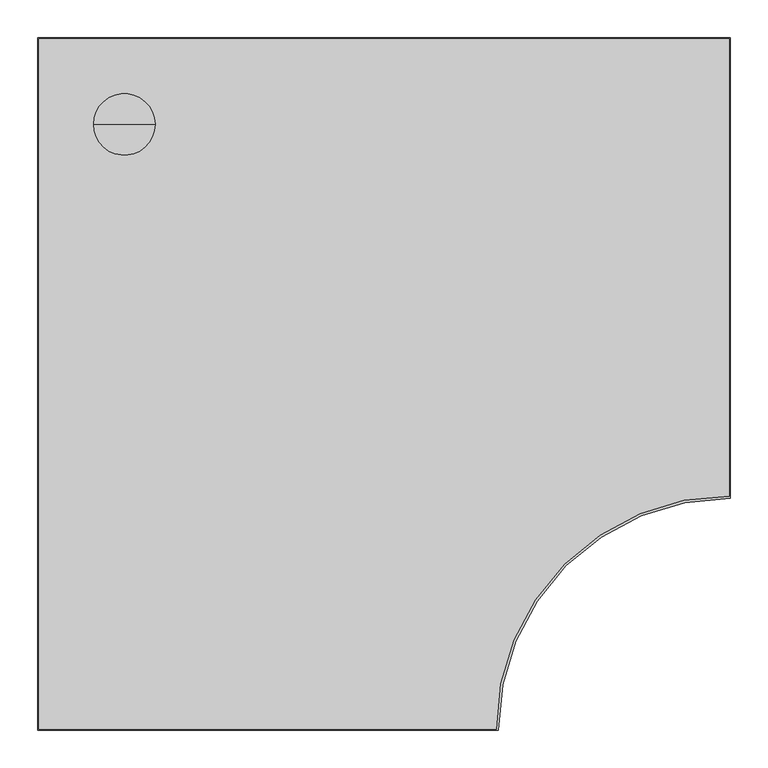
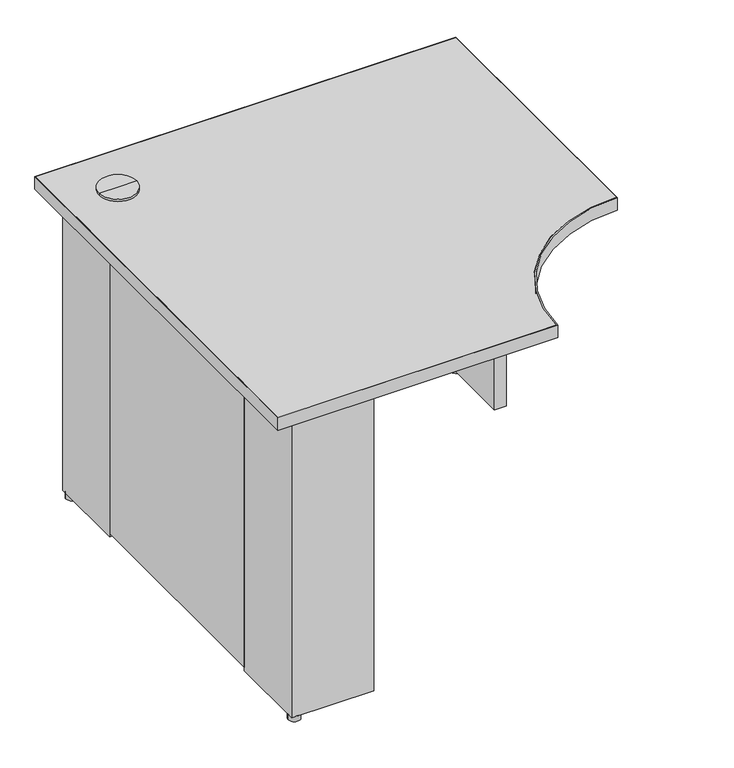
"""IFC4 building model written with IfcOpenShell, lengths in millimetres: furniture geometry, Steelcase - Kick Freestanding - Desk - Curve Corner - Full Height Modesty Panel : 24D x 36W - Two Clear Access Support - LPL."""

from ifc_helpers import new_model, si_unit, point, frame, frame_2d, origin, origin_with_axes, place, context, project, spatial, polyline, circle_curve, trimmed, segment, composite_curve, outline, extrude, source, transform, mapped, element, save
from ifc_brep_helpers import plane_surface, cylinder_surface, advanced_brep


def furniture_1b074408(model_context):
    return source(origin(), model_context, "Body", "SolidModel", [
        extrude(outline(polyline([(721.6393822, -63.5), (721.6393822, -38.1), (899.4393579, -38.1), (899.4393579, -215.8999939), (873.5313463, -215.8999939), (873.5313463, -63.5), (721.6393822, -63.5)])), frame((0.0, 0.0, 12.446), z_axis=(0.0, 0.0, 1.0), x_axis=(1.0, 0.0, 0.0)), (0.0, 0.0, 1.0), 682.498),
        extrude(outline(polyline([(215.8999939, -63.5), (63.5, -63.5), (63.5, -215.8999939), (38.1, -215.8999939), (38.1, -38.1), (215.8999939, -38.1), (215.8999939, -63.5)])), frame((0.0, 0.0, 12.446), z_axis=(0.0, 0.0, 1.0), x_axis=(1.0, 0.0, 0.0)), (0.0, 0.0, 1.0), 682.498),
        advanced_brep(
        [(114.3, -114.3, 728.98), (154.94, -114.3, 728.98), (73.66, -114.3, 728.98), (76.1699693, -114.3, 694.944), (152.4300307, -114.3, 694.944), (114.3, -114.3, 694.944), (76.1699693, -114.3, 723.9), (152.4300307, -114.3, 723.9), (73.66, -114.3, 723.9), (154.94, -114.3, 723.9)],
        [
            (0, 1),
            (1, 2, circle_curve(frame((114.3, -114.3, 728.98), z_axis=(0.0, 0.0, 1.0), x_axis=(1.0, 0.0, 0.0)), 40.64)),
            (2, 0),
            (2, 1, circle_curve(frame((114.3, -114.3, 728.98), z_axis=(0.0, 0.0, 1.0), x_axis=(1.0, 0.0, 0.0)), 40.64)),
            (3, 4, circle_curve(frame((114.3, -114.3, 694.944), z_axis=(0.0, 0.0, -1.0), x_axis=(1.0, 0.0, 0.0)), 38.1300307)),
            (4, 5),
            (5, 3),
            (4, 3, circle_curve(frame((114.3, -114.3, 694.944), z_axis=(0.0, 0.0, -1.0), x_axis=(1.0, 0.0, 0.0)), 38.1300307)),
            (6, 7, circle_curve(frame((114.3, -114.3, 723.9), z_axis=(0.0, 0.0, -1.0), x_axis=(1.0, 0.0, 0.0)), 38.1300307)),
            (7, 4),
            (3, 6),
            (7, 6, circle_curve(frame((114.3, -114.3, 723.9), z_axis=(0.0, 0.0, -1.0), x_axis=(1.0, 0.0, 0.0)), 38.1300307)),
            (8, 9, circle_curve(frame((114.3, -114.3, 723.9), z_axis=(0.0, 0.0, -1.0), x_axis=(1.0, 0.0, 0.0)), 40.64)),
            (9, 7),
            (6, 8),
            (9, 8, circle_curve(frame((114.3, -114.3, 723.9), z_axis=(0.0, 0.0, -1.0), x_axis=(1.0, 0.0, 0.0)), 40.64)),
            (1, 9),
            (8, 2),
        ],
        [
            plane_surface(frame((114.3, -114.3, 728.98), z_axis=(0.0, 0.0, 1.0), x_axis=(1.0, 0.0, 0.0))),
            plane_surface(frame((114.3, -114.3, 694.944), z_axis=(0.0, 0.0, -1.0), x_axis=(1.0, 0.0, 0.0))),
            cylinder_surface(frame((114.3, -114.3, 728.98), z_axis=(0.0, 0.0, 1.0), x_axis=(1.0, 0.0, 0.0)), 38.1300307),
            plane_surface(frame((114.3, -114.3, 723.9), z_axis=(0.0, 0.0, -1.0), x_axis=(1.0, 0.0, 0.0))),
            cylinder_surface(frame((114.3, -114.3, 728.98), z_axis=(0.0, 0.0, 1.0), x_axis=(1.0, 0.0, 0.0)), 40.64),
        ],
        [
            (0, [[1, 2, 3]]),
            (0, [[-3, 4, -1]]),
            (1, [[5, 6, 7]]),
            (1, [[8, -7, -6]]),
            (2, [[9, 10, -5, 11]]),
            (2, [[12, -11, -8, -10]]),
            (3, [[13, 14, -9, 15]]),
            (3, [[16, -15, -12, -14]]),
            (4, [[-2, 17, -13, 18]]),
            (4, [[-4, -18, -16, -17]]),
        ],
    ),
        extrude(outline(composite_curve([segment(trimmed(circle_curve(frame_2d((50.8, -50.8)), 12.7), [point((38.1, -50.8))], [point((63.5, -50.8))], False, "CARTESIAN"), True, "CONTINUOUS"), segment(trimmed(circle_curve(frame_2d((50.8, -50.8)), 12.7), [point((63.5, -50.8))], [point((38.1, -50.8))], False, "CARTESIAN"), True, "CONTINUOUS")], self_intersect=False)), origin_with_axes(), (0.0, 0.0, 1.0), 12.446),
        extrude(outline(composite_curve([segment(trimmed(circle_curve(frame_2d((50.8, -887.7300073)), 12.7484998), [point((38.0515002, -887.7300073))], [point((63.5484998, -887.7300073))], False, "CARTESIAN"), True, "CONTINUOUS"), segment(trimmed(circle_curve(frame_2d((50.8, -887.7300073)), 12.7484998), [point((63.5484998, -887.7300073))], [point((38.0515002, -887.7300073))], False, "CARTESIAN"), True, "CONTINUOUS")], self_intersect=False)), origin_with_axes(), (0.0, 0.0, 1.0), 12.446),
        extrude(outline(composite_curve([segment(trimmed(circle_curve(frame_2d((886.4853521, -50.8)), 12.7), [point((873.7853521, -50.8))], [point((899.1853521, -50.8))], False, "CARTESIAN"), True, "CONTINUOUS"), segment(trimmed(circle_curve(frame_2d((886.4853521, -50.8)), 12.7), [point((899.1853521, -50.8))], [point((873.7853521, -50.8))], False, "CARTESIAN"), True, "CONTINUOUS")], self_intersect=False)), origin_with_axes(), (0.0, 0.0, 1.0), 12.446),
        extrude(outline(polyline([(63.5, -215.8999939), (63.5, -722.6300194), (38.1, -722.6300194), (38.1, -215.8999939), (63.5, -215.8999939)])), frame((0.0, 0.0, 20.828), z_axis=(0.0, 0.0, 1.0), x_axis=(1.0, 0.0, 0.0)), (0.0, 0.0, 1.0), 674.116),
        extrude(outline(polyline([(721.6393822, -38.1), (721.6393822, -63.5), (215.8999939, -63.5), (215.8999939, -38.1), (721.6393822, -38.1)])), frame((0.0, 0.0, 20.828), z_axis=(0.0, 0.0, 1.0), x_axis=(1.0, 0.0, 0.0)), (0.0, 0.0, 1.0), 674.116),
        extrude(outline(polyline([(215.8999939, -875.0300194), (215.8999939, -900.4299952), (38.1, -900.4299952), (38.1, -722.6300194), (63.5, -722.6300194), (63.5, -875.0300194), (215.8999939, -875.0300194)])), frame((0.0, 0.0, 12.446), z_axis=(0.0, 0.0, 1.0), x_axis=(1.0, 0.0, 0.0)), (0.0, 0.0, 1.0), 682.498),
        extrude(outline(composite_curve([segment(polyline([(0.9906, -913.4093628), (0.9906, -0.9906), (913.4093628, -0.9906), (913.4093628, -605.3354109)]), True, "CONTINUOUS"), segment(trimmed(circle_curve(frame_2d((912.1393458, -912.1393458)), 306.8065636), [point((913.4093628, -605.3354109))], [point((605.3354109, -913.4093628))], True, "CARTESIAN"), True, "CONTINUOUS"), segment(polyline([(605.3354109, -913.4093628), (0.9906, -913.4093628)]), True, "CONTINUOUS")], self_intersect=False)), frame((0.0, 0.0, 694.944), z_axis=(0.0, 0.0, 1.0), x_axis=(1.0, 0.0, 0.0)), (0.0, 0.0, 1.0), 28.956),
        extrude(outline(composite_curve([segment(polyline([(914.4, 0.0), (914.4, -608.332629)]), True, "CONTINUOUS"), segment(trimmed(circle_curve(frame_2d((913.129983, -913.129983)), 304.8), [point((914.4, -608.332629))], [point((608.332629, -914.4))], True, "CARTESIAN"), True, "CONTINUOUS"), segment(polyline([(608.332629, -914.4), (0.0, -914.4), (0.0, 0.0), (914.4, 0.0)]), True, "CONTINUOUS")], self_intersect=False), holes=[composite_curve([segment(polyline([(913.4093628, -0.9906), (0.9906, -0.9906), (0.9906, -913.4093628), (605.3354109, -913.4093628)]), True, "CONTINUOUS"), segment(trimmed(circle_curve(frame_2d((912.1393458, -912.1393458)), 306.8065636), [point((605.3354109, -913.4093628))], [point((913.4093628, -605.3354109))], False, "CARTESIAN"), True, "CONTINUOUS"), segment(polyline([(913.4093628, -605.3354109), (913.4093628, -0.9906)]), True, "CONTINUOUS")], self_intersect=False)]), frame((0.0, 0.0, 694.944), z_axis=(0.0, 0.0, 1.0), x_axis=(1.0, 0.0, 0.0)), (0.0, 0.0, 1.0), 28.956),
    ])


if __name__ == "__main__":
    model = new_model("IFC4")
    model_context = context("Model", 3, world=origin())
    ifc_project = project(units=[si_unit("LENGTHUNIT", "METRE", prefix="MILLI")], contexts=[model_context])
    site = spatial("IfcSite", under=ifc_project)
    building = spatial("IfcBuilding", under=site)
    placement = place(None, origin())
    furniture_shape = furniture_1b074408(model_context)
    element("IfcFurniture", 1, ObjectType="Steelcase - Kick Freestanding - Desk - Curve Corner - Full Height Modesty Panel : 24D x 36W - Two Clear Access Support - LPL", at=placement, inside=building, context=model_context, shape_type="MappedRepresentation", body=[
        mapped(furniture_shape, transform((0.0, 0.0, 0.0), x_axis=(1.0, 0.0, 0.0), y_axis=(0.0, 1.0, 0.0), z_axis=(0.0, 0.0, 1.0))),
    ])
    save(model, "model.ifc")
